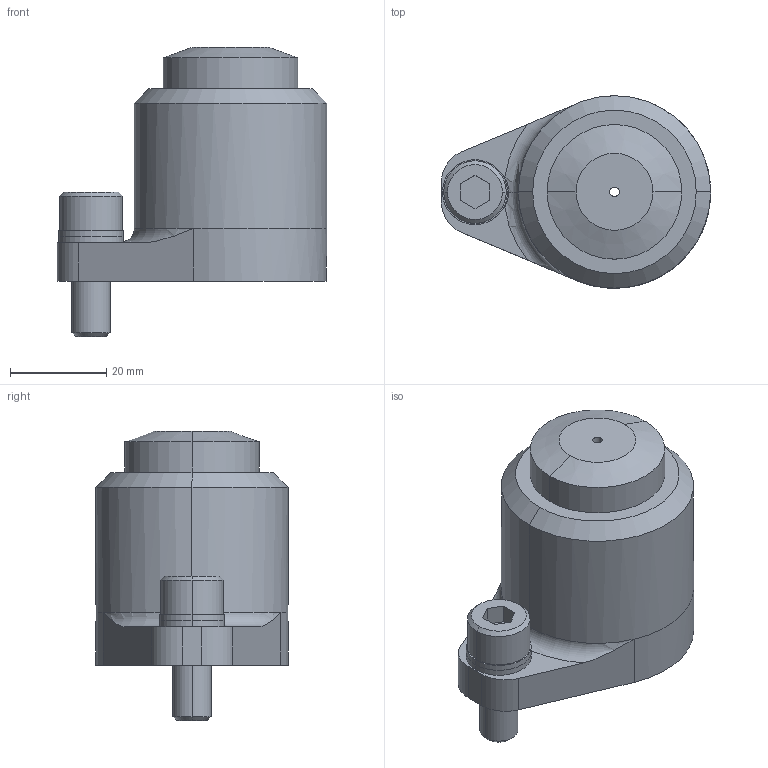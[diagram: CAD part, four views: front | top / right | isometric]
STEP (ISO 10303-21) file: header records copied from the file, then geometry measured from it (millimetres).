
FILE_DESCRIPTION(/* description */ (''),/* implementation_level */ '2;1');
FILE_NAME(/* name */ '3d_sprb10-g_05389_r00.stp',/* time_stamp */ '2011-01-10T14:10:08+09:00',/* author */ ('MISUMI'),/* organization */ (''),/* preprocessor_version */ 'ST-DEVELOPER v11',/* originating_system */ 'UGS - NX 5.0',/* authorisation */ '');
FILE_SCHEMA (('CONFIG_CONTROL_DESIGN'));
Length unit declared in the file: millimetre
Products named in the file (1): 3d_sprb10-g_05389_r00
Bounding box: 56 x 40 x 60.1 mm (x, y, z)
Volume: 53118.9 mm3; surface area: 23644.1 mm2
Topology: 6 solids, 6 shells, 74 faces, 163 edges, 105 vertices
Faces by surface type: cylinder 38, plane 26, cone 8, torus 2
Entity records: 2174 total; most frequent: DIRECTION 396, CARTESIAN_POINT 359, ORIENTED_EDGE 326, EDGE_CURVE 163, AXIS2_PLACEMENT_3D 162, VERTEX_POINT 105, EDGE_LOOP 90, CIRCLE 87
